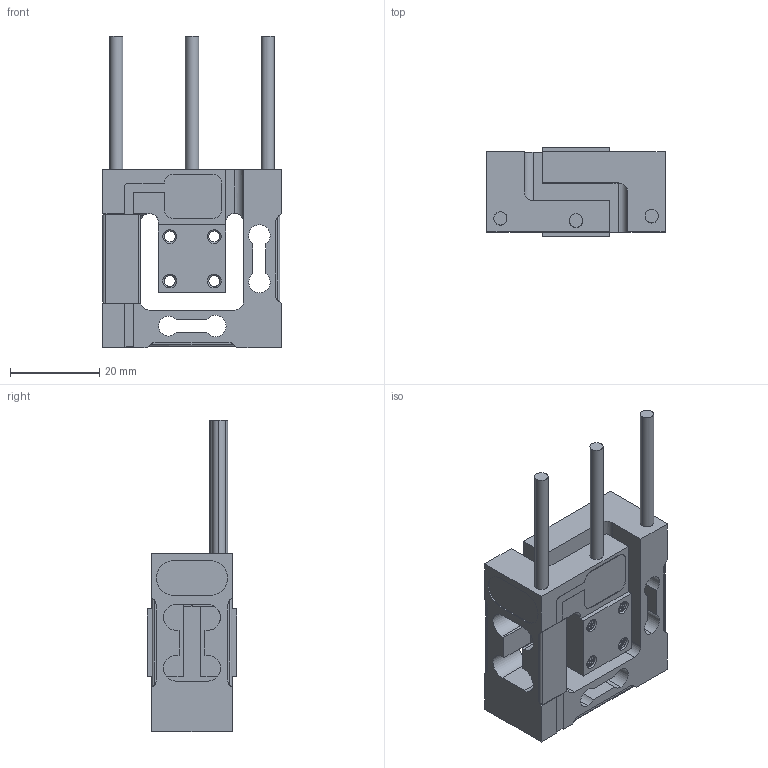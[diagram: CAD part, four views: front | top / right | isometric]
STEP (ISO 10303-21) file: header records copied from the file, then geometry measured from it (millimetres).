
FILE_DESCRIPTION (( 'STEP AP203' ), '1' );
FILE_NAME ('LCM01.STEP', '2024-07-16T04:17:04', ( '' ), ( '' ), 'SwSTEP 2.0', 'SolidWorks 2019', '' );
FILE_SCHEMA (( 'CONFIG_CONTROL_DESIGN' ));
Length unit declared in the file: millimetre
Products named in the file (1): LCM01
Bounding box: 40 x 20 x 70 mm (x, y, z)
Volume: 19239.4 mm3; surface area: 13816.7 mm2
Topology: 8 solids, 8 shells, 472 faces, 1327 edges, 872 vertices
Faces by surface type: cylinder 316, plane 116, bspline 24, cone 16
Entity records: 29682 total; most frequent: CARTESIAN_POINT 19028, ORIENTED_EDGE 2654, DIRECTION 1800, EDGE_CURVE 1327, VERTEX_POINT 872, AXIS2_PLACEMENT_3D 600, LINE 600, VECTOR 600
